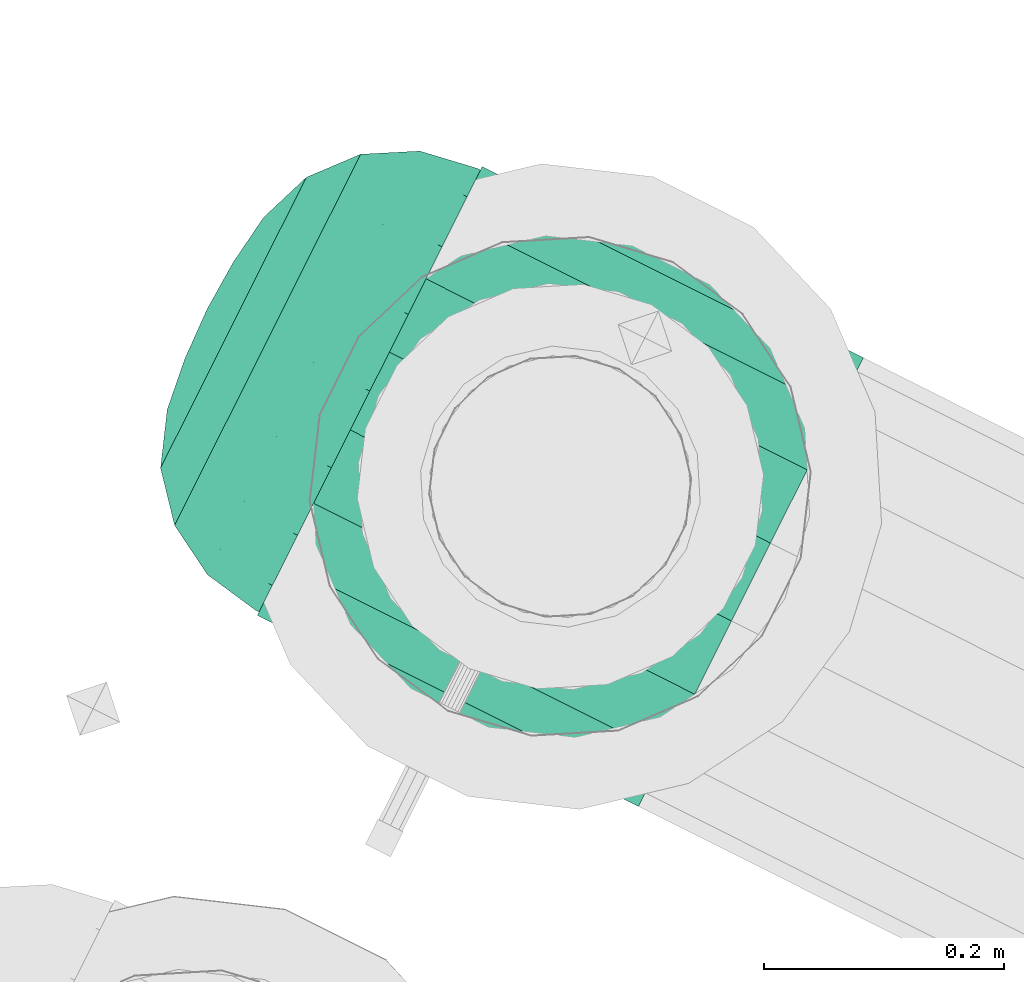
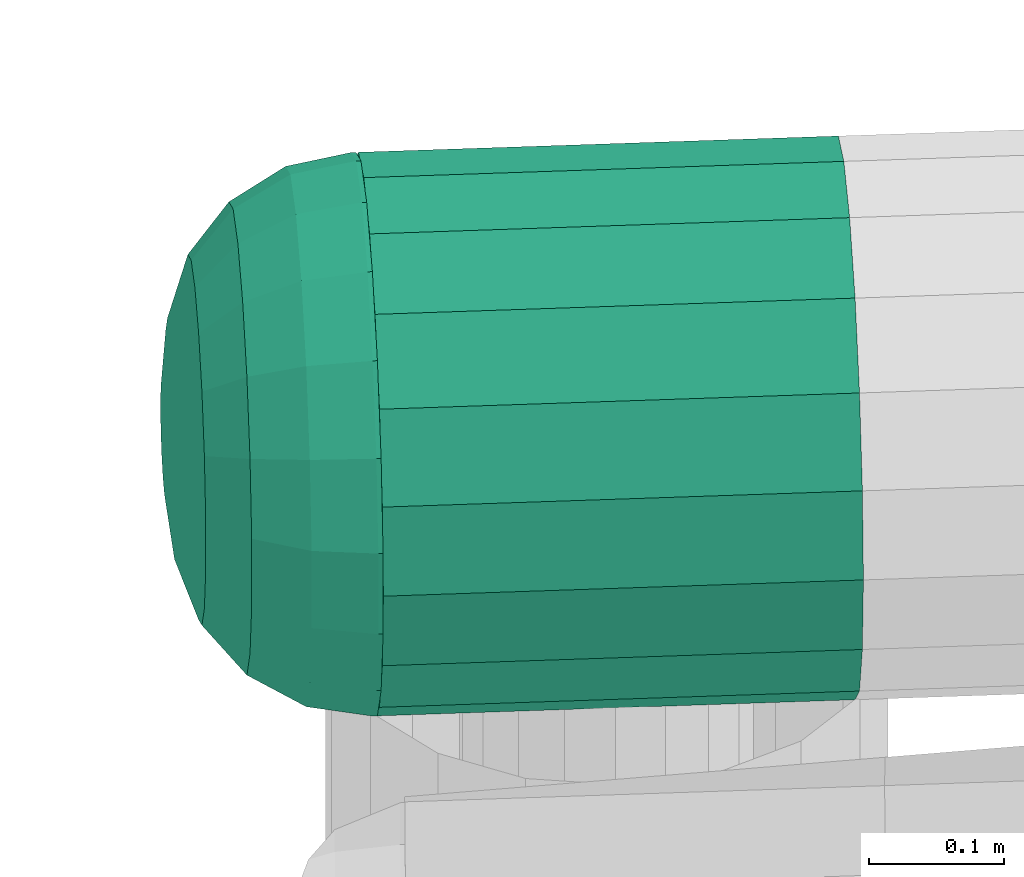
# One storey, part 130 of 152: 2 flow fittings.
"""IFC2X3 building model written with IfcOpenShell, lengths in metres."""

from ifc_helpers import new_model, si_unit, derived_unit, direction, frame, origin, place, context, subcontext, project, spatial, face_set, surface_model, source, transform, mapped, material, type_object, type_shapes, element, save


model = new_model("IFC2X3")

# Units and contexts
model_context = context("Model", 3, precision=5.2338327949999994e-05, world=origin(), true_north=direction((0.0, 1.0)))
body_context = subcontext(model_context, "Body", "Model", "MODEL_VIEW")
ifc_project = project(units=[si_unit("LENGTHUNIT", "METRE"), si_unit("AREAUNIT", "SQUARE_METRE"), si_unit("VOLUMEUNIT", "CUBIC_METRE"), si_unit("MASSUNIT", "GRAM", prefix="KILO"), si_unit("PLANEANGLEUNIT", "RADIAN"), derived_unit("THERMALTRANSMITTANCEUNIT", [(si_unit("MASSUNIT", "GRAM", prefix="KILO"), 1), (si_unit("THERMODYNAMICTEMPERATUREUNIT", "KELVIN"), -1), (si_unit("TIMEUNIT", "SECOND"), -3)])], contexts=[model_context])

# Site, building, storey
site_placement = place(None, frame((0.0, 0.0, 0.0), z_axis=(0.0, 0.0, 1.0), x_axis=(0.8939966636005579, -0.4480736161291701, 0.0)))
site = spatial("IfcSite", under=ifc_project, at=site_placement, Name="Default", CompositionType="ELEMENT")
building_placement = place(site_placement, origin())
building = spatial("IfcBuilding", under=site, at=building_placement, CompositionType="ELEMENT")
storey_placement = place(building_placement, frame((0.0, 0.0, 2.7499999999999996)))
storey = spatial("IfcBuildingStorey", under=building, at=storey_placement, Name="1. Obergeschoss", CompositionType="ELEMENT", Elevation=2.7499999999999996)

# Flow fittings
ifc_material = material(Name="IfcSurfaceStyle #1741")
distribution_element_type_1 = type_object("IfcDistributionElementType", Name="Abzweigstück 226775:Abzweigstück 226775", material=ifc_material)
shared_shape_1 = source(origin(), body_context, "Body", "SurfaceModel", [
    surface_model("IfcFaceBasedSurfaceModel", [(5.3007665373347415, 7.902658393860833, 5.553028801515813), (5.3007665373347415, 7.909265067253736, 5.59049710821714), (4.944766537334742, 7.909265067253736, 5.59049710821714), (4.944766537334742, 7.902658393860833, 5.553028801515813), (5.3007665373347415, 7.928288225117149, 5.623446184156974), (4.944766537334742, 7.928288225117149, 5.623446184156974), (5.3007665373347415, 7.957433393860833, 5.6479018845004), (4.944766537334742, 7.957433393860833, 5.6479018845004), (5.3007665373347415, 7.9931852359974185, 5.660914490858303), (4.944766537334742, 7.9931852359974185, 5.660914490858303), (5.3007665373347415, 8.031231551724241, 5.660914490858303), (4.944766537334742, 8.031231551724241, 5.660914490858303), (5.3007665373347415, 8.066983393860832, 5.647901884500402), (4.944766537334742, 8.066983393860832, 5.647901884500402), (5.3007665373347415, 8.096128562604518, 5.623446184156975), (4.944766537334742, 8.096128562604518, 5.623446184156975), (5.3007665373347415, 8.115151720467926, 5.590497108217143), (4.944766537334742, 8.115151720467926, 5.590497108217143), (5.3007665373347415, 8.121758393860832, 5.553028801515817), (4.944766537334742, 8.121758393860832, 5.553028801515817), (5.3007665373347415, 8.115151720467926, 5.51556049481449), (4.944766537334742, 8.115151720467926, 5.51556049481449), (5.3007665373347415, 8.096128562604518, 5.482611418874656), (4.944766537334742, 8.096128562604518, 5.482611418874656), (5.3007665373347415, 8.066983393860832, 5.458155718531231), (4.944766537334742, 8.066983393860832, 5.458155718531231), (5.3007665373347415, 8.031231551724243, 5.445143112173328), (4.944766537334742, 8.031231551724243, 5.445143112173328), (5.3007665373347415, 7.993185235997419, 5.445143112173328), (4.944766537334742, 7.993185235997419, 5.445143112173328), (5.3007665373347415, 7.957433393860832, 5.45815571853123), (4.944766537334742, 7.957433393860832, 5.45815571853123), (5.3007665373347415, 7.928288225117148, 5.4826114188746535), (4.944766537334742, 7.928288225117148, 5.4826114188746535), (5.3007665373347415, 7.909265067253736, 5.515560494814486), (4.944766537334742, 7.909265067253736, 5.515560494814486), (5.3007665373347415, 7.802658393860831, 5.553028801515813), (5.3007665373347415, 7.8152958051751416, 5.624699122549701), (4.944766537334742, 7.815295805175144, 5.624699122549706), (4.944766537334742, 7.802658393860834, 5.553028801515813), (5.3007665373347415, 7.851683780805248, 5.687724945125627), (4.944766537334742, 7.851683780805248, 5.687724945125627), (5.3007665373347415, 7.907433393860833, 5.7345044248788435), (4.944766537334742, 7.907433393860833, 5.7345044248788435), (5.3007665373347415, 7.975820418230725, 5.759395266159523), (4.944766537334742, 7.975820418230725, 5.759395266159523), (5.3007665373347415, 8.048596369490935, 5.759395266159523), (4.944766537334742, 8.048596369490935, 5.759395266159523), (5.3007665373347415, 8.11698339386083, 5.734504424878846), (4.944766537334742, 8.11698339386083, 5.734504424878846), (5.3007665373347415, 8.172733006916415, 5.687724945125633), (4.944766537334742, 8.172733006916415, 5.687724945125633), (5.3007665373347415, 8.20912098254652, 5.6246991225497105), (4.944766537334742, 8.20912098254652, 5.6246991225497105), (5.3007665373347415, 8.22175839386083, 5.553028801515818), (4.944766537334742, 8.22175839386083, 5.553028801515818), (5.3007665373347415, 8.209120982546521, 5.481358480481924), (4.944766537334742, 8.209120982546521, 5.481358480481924), (5.3007665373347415, 8.172733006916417, 5.418332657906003), (4.944766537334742, 8.172733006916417, 5.418332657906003), (5.3007665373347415, 8.116983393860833, 5.371553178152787), (4.944766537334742, 8.116983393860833, 5.371553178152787), (5.3007665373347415, 8.04859636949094, 5.3466623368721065), (4.944766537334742, 8.04859636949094, 5.3466623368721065), (5.3007665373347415, 7.97582041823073, 5.3466623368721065), (4.944766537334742, 7.97582041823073, 5.3466623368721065), (5.3007665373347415, 7.907433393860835, 5.3715531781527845), (4.944766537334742, 7.907433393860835, 5.3715531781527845), (5.3007665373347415, 7.851683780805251, 5.418332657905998), (4.944766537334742, 7.851683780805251, 5.418332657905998), (5.3007665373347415, 7.815295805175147, 5.481358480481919), (4.944766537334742, 7.815295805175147, 5.481358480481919), (5.013216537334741, 8.012208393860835, 5.443478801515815), (5.019823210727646, 8.049676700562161, 5.45008547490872), (5.019823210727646, 8.049676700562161, 5.375028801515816), (5.013216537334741, 8.012208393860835, 5.375028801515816), (5.038846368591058, 8.082625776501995, 5.469108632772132), (5.038846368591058, 8.082625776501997, 5.375028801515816), (5.067991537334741, 8.107081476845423, 5.498253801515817), (5.067991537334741, 8.107081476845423, 5.375028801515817), (5.10374337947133, 8.120094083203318, 5.534005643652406), (5.10374337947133, 8.12009408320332, 5.375028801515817), (5.141789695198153, 8.12009408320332, 5.534005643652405), (5.141789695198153, 8.120094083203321, 5.375028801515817), (5.177541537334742, 8.107081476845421, 5.498253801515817), (5.177541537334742, 8.10708147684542, 5.375028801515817), (5.2066867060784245, 8.082625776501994, 5.469108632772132), (5.2066867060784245, 8.082625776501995, 5.375028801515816), (5.225709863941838, 8.049676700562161, 5.45008547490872), (5.225709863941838, 8.049676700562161, 5.375028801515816), (5.232316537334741, 8.012208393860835, 5.443478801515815), (5.232316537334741, 8.012208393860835, 5.375028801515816), (5.225709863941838, 7.974740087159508, 5.450085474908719), (5.225709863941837, 7.974740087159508, 5.375028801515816), (5.2066867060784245, 7.941791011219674, 5.46910863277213), (5.2066867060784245, 7.941791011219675, 5.375028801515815), (5.177541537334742, 7.917335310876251, 5.498253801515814), (5.177541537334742, 7.917335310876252, 5.375028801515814), (5.141789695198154, 7.904322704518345, 5.534005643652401), (5.141789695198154, 7.904322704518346, 5.375028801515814), (5.10374337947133, 7.904322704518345, 5.534005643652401), (5.10374337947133, 7.904322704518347, 5.375028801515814), (5.067991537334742, 7.917335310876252, 5.498253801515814), (5.067991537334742, 7.917335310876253, 5.375028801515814), (5.038846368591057, 7.941791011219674, 5.46910863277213), (5.038846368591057, 7.941791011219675, 5.375028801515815), (5.019823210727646, 7.974740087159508, 5.450085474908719), (5.019823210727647, 7.974740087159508, 5.375028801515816)], [face_set([[[0, 1, 2, 3]], [[1, 4, 5, 2]], [[4, 6, 7, 5]], [[6, 8, 9, 7]], [[8, 10, 11, 9]], [[10, 12, 13, 11]], [[12, 14, 15, 13]], [[14, 16, 17, 15]], [[16, 18, 19, 17]], [[18, 20, 21, 19]], [[20, 22, 23, 21]], [[22, 24, 25, 23]], [[24, 26, 27, 25]], [[26, 28, 29, 27]], [[28, 30, 31, 29]], [[30, 32, 33, 31]], [[32, 34, 35, 33]], [[34, 0, 3, 35]], [[36, 37, 38, 39]], [[37, 40, 41, 38]], [[40, 42, 43, 41]], [[42, 44, 45, 43]], [[44, 46, 47, 45]], [[46, 48, 49, 47]], [[48, 50, 51, 49]], [[50, 52, 53, 51]], [[52, 54, 55, 53]], [[54, 56, 57, 55]], [[56, 58, 59, 57]], [[58, 60, 61, 59]], [[60, 62, 63, 61]], [[62, 64, 65, 63]], [[64, 66, 67, 65]], [[66, 68, 69, 67]], [[68, 70, 71, 69]], [[70, 36, 39, 71]], [[72, 73, 74, 75]], [[73, 76, 77, 74]], [[76, 78, 79, 77]], [[78, 80, 81, 79]], [[80, 82, 83, 81]], [[82, 84, 85, 83]], [[84, 86, 87, 85]], [[86, 88, 89, 87]], [[88, 90, 91, 89]], [[90, 92, 93, 91]], [[92, 94, 95, 93]], [[94, 96, 97, 95]], [[96, 98, 99, 97]], [[98, 100, 101, 99]], [[100, 102, 103, 101]], [[102, 104, 105, 103]], [[104, 106, 107, 105]], [[106, 72, 75, 107]]])]),
])
type_shapes(distribution_element_type_1, [shared_shape_1])
flow_fitting_1_placement = place(storey_placement, frame((0.0, 0.0, -2.7499999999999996)))
element("IfcFlowFitting", 1, at=flow_fitting_1_placement, inside=storey, type_object=distribution_element_type_1, material=ifc_material, Name="Abzweigstück", ObjectType="Abzweigstück", context=body_context, shape_type="MappedRepresentation", body=[
    mapped(shared_shape_1, transform((0.0, 0.0, 0.0), scale=1.0)),
])
distribution_element_type_2 = type_object("IfcDistributionElementType", Name="Klöpperboden 240325:Klöpperboden 240325", material=ifc_material)
shared_shape_2 = source(origin(), body_context, "Body", "SurfaceModel", [
    surface_model("IfcFaceBasedSurfaceModel", [(4.898305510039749, 8.012208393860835, 5.553028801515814), (4.903973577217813, 8.012208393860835, 5.602659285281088), (4.903973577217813, 8.029183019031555, 5.599666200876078), (4.903973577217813, 8.0441102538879, 5.591047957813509), (4.903973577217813, 8.055189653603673, 5.577844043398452), (4.903973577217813, 8.061084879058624, 5.561647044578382), (4.90397357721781, 8.061084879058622, 5.544410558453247), (4.903973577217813, 8.055189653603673, 5.528213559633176), (4.903973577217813, 8.0441102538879, 5.515009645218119), (4.903973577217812, 8.029183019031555, 5.5063914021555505), (4.903973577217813, 8.012208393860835, 5.5033983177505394), (4.903973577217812, 7.995233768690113, 5.506391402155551), (4.903973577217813, 7.980306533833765, 5.51500964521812), (4.903973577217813, 7.969227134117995, 5.528213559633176), (4.903973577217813, 7.9633319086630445, 5.544410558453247), (4.903973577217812, 7.963331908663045, 5.561647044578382), (4.903973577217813, 7.969227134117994, 5.577844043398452), (4.903973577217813, 7.980306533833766, 5.59104795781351), (4.903973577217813, 7.995233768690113, 5.599666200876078), (4.920685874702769, 8.012208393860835, 5.64973381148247), (4.9206858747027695, 8.04528345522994, 5.64390178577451), (4.920685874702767, 8.074369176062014, 5.627109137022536), (4.9206858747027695, 8.095957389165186, 5.601381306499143), (4.9206858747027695, 8.10744423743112, 5.569821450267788), (4.9206858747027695, 8.10744423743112, 5.536236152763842), (4.920685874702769, 8.095957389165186, 5.504676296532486), (4.920685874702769, 8.074369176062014, 5.47894846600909), (4.920685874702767, 8.045283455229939, 5.462155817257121), (4.920685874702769, 8.012208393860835, 5.456323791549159), (4.9206858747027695, 7.979133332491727, 5.462155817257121), (4.920685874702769, 7.950047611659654, 5.4789484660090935), (4.920685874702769, 7.928459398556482, 5.5046762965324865), (4.9206858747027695, 7.916972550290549, 5.536236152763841), (4.92068587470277, 7.916972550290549, 5.569821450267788), (4.920685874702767, 7.928459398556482, 5.6013813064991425), (4.920685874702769, 7.950047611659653, 5.627109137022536), (4.920685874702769, 7.979133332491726, 5.64390178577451), (4.925751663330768, 8.012208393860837, 5.656525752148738), (4.925751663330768, 8.047606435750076, 5.650284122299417), (4.92575166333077, 8.078734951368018, 5.632312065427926), (4.925751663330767, 8.10183938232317, 5.604777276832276), (4.925751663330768, 8.11413299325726, 5.571000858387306), (4.92575166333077, 8.11413299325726, 5.535056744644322), (4.925751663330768, 8.10183938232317, 5.501280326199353), (4.92575166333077, 8.078734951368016, 5.473745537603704), (4.92575166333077, 8.047606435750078, 5.455773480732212), (4.92575166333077, 8.012208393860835, 5.449531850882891), (4.925751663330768, 7.976810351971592, 5.455773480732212), (4.92575166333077, 7.945681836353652, 5.473745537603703), (4.92575166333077, 7.922577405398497, 5.501280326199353), (4.92575166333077, 7.910283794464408, 5.535056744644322), (4.92575166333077, 7.910283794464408, 5.571000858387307), (4.92575166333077, 7.922577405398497, 5.6047772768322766), (4.925751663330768, 7.94568183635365, 5.632312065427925), (4.92575166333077, 7.976810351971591, 5.650284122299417), (4.9329396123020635, 8.012208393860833, 5.6610119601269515), (4.932939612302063, 8.049140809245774, 5.6544997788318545), (4.9329396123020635, 8.081618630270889, 5.6357487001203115), (4.9329396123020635, 8.105724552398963, 5.607020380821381), (4.932939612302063, 8.118551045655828, 5.571779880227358), (4.9329396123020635, 8.11855104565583, 5.534277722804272), (4.9329396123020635, 8.105724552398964, 5.499037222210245), (4.9329396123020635, 8.08161863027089, 5.470308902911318), (4.9329396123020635, 8.049140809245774, 5.4515578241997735), (4.9329396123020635, 8.012208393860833, 5.445045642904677), (4.9329396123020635, 7.975275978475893, 5.451557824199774), (4.9329396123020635, 7.9427981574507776, 5.470308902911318), (4.932939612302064, 7.9186922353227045, 5.499037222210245), (4.932939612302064, 7.905865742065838, 5.534277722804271), (4.9329396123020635, 7.905865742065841, 5.571779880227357), (4.9329396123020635, 7.9186922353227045, 5.607020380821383), (4.932939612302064, 7.9427981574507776, 5.635748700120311), (4.9329396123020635, 7.975275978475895, 5.654499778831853), (4.941266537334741, 8.012208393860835, 5.6625788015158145), (4.941266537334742, 8.049676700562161, 5.65597212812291), (4.941266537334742, 8.082625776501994, 5.636948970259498), (4.941266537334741, 8.10708147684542, 5.6078038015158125), (4.941266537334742, 8.120094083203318, 5.572051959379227), (4.941266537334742, 8.120094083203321, 5.534005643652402), (4.941266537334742, 8.10708147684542, 5.498253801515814), (4.941266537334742, 8.082625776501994, 5.469108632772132), (4.941266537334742, 8.049676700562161, 5.450085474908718), (4.941266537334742, 8.012208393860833, 5.443478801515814), (4.941266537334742, 7.974740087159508, 5.450085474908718), (4.941266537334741, 7.941791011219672, 5.469108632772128), (4.941266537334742, 7.917335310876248, 5.498253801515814), (4.941266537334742, 7.904322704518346, 5.534005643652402), (4.941266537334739, 7.904322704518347, 5.572051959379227), (4.941266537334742, 7.917335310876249, 5.607803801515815), (4.941266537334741, 7.941791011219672, 5.636948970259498), (4.941266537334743, 7.974740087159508, 5.655972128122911), (4.944766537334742, 8.012208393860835, 5.6625788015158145), (4.944766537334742, 8.049676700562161, 5.65597212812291), (4.944766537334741, 8.082625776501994, 5.636948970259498), (4.944766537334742, 8.107081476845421, 5.607803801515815), (4.944766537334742, 8.120094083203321, 5.572051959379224), (4.944766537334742, 8.120094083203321, 5.5340056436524), (4.944766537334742, 8.107081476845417, 5.498253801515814), (4.944766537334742, 8.082625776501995, 5.469108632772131), (4.944766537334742, 8.049676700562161, 5.450085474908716), (4.944766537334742, 8.012208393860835, 5.443478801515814), (4.944766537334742, 7.974740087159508, 5.450085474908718), (4.944766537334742, 7.9417910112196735, 5.46910863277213), (4.944766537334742, 7.917335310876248, 5.498253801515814), (4.944766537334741, 7.904322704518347, 5.534005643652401), (4.944766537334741, 7.904322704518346, 5.572051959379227), (4.944766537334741, 7.917335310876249, 5.607803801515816), (4.944766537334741, 7.941791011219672, 5.636948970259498), (4.944766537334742, 7.974740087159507, 5.65597212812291), (4.79261642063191, 8.012208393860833, 5.553028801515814), (4.794581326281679, 8.012208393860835, 5.5987364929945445), (4.794581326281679, 8.027841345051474, 5.595979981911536), (4.794581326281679, 8.041588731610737, 5.588042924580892), (4.794581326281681, 8.051792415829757, 5.575882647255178), (4.794581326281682, 8.057221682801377, 5.560965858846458), (4.794581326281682, 8.057221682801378, 5.54509174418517), (4.794581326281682, 8.051792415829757, 5.53017495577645), (4.794581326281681, 8.041588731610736, 5.5180146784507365), (4.794581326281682, 8.027841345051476, 5.510077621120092), (4.794581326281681, 8.012208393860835, 5.5073211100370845), (4.794581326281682, 7.996575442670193, 5.510077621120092), (4.794581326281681, 7.9828280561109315, 5.5180146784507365), (4.794581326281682, 7.972624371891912, 5.53017495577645), (4.794581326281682, 7.9671951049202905, 5.54509174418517), (4.794581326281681, 7.96719510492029, 5.560965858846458), (4.794581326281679, 7.972624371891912, 5.575882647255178), (4.794581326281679, 7.9828280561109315, 5.5880429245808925), (4.794581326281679, 7.996575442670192, 5.595979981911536), (4.800461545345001, 8.012208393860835, 5.644106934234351), (4.800461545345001, 8.043358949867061, 5.6386142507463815), (4.800461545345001, 8.070752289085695, 5.622798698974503), (4.800461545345, 8.091084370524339, 5.598567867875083), (4.800461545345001, 8.101902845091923, 5.5688443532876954), (4.800461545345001, 8.101902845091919, 5.537213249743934), (4.800461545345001, 8.091084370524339, 5.507489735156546), (4.800461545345, 8.070752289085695, 5.483258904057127), (4.800461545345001, 8.043358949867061, 5.467443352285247), (4.800461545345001, 8.012208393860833, 5.461950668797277), (4.800461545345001, 7.981057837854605, 5.467443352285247), (4.800461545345, 7.953664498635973, 5.483258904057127), (4.800461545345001, 7.933332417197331, 5.507489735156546), (4.800461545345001, 7.9225139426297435, 5.5372132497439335), (4.800461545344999, 7.922513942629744, 5.568844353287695), (4.800461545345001, 7.933332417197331, 5.598567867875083), (4.800461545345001, 7.953664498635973, 5.622798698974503), (4.800461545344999, 7.981057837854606, 5.638614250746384), (4.817359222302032, 8.012208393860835, 5.690874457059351), (4.817359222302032, 8.059354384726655, 5.682561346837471), (4.817359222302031, 8.100813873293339, 5.658624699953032), (4.817359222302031, 8.131586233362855, 5.621951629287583), (4.817359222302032, 8.147959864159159, 5.576965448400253), (4.817359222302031, 8.147959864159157, 5.529092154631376), (4.817359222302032, 8.131586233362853, 5.484105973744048), (4.817359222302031, 8.100813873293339, 5.447432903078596), (4.817359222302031, 8.059354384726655, 5.423496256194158), (4.817359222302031, 8.012208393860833, 5.415183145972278), (4.817359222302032, 7.965062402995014, 5.423496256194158), (4.817359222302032, 7.923602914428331, 5.447432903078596), (4.817359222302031, 7.892830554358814, 5.484105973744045), (4.8173592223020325, 7.876456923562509, 5.529092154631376), (4.817359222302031, 7.876456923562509, 5.576965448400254), (4.817359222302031, 7.892830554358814, 5.621951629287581), (4.817359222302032, 7.923602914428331, 5.658624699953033), (4.8173592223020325, 7.965062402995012, 5.6825613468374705), (4.849258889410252, 8.012208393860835, 5.729020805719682), (4.849258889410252, 8.072401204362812, 5.7184071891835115), (4.84925888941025, 8.12533387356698, 5.687846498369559), (4.849258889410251, 8.164621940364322, 5.641024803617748), (4.849258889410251, 8.185526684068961, 5.583589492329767), (4.849258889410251, 8.185526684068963, 5.522468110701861), (4.849258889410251, 8.164621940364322, 5.46503279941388), (4.84925888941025, 8.12533387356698, 5.418211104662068), (4.849258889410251, 8.072401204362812, 5.3876504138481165), (4.84925888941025, 8.012208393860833, 5.377036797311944), (4.849258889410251, 7.952015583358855, 5.3876504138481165), (4.849258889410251, 7.899082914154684, 5.418211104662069), (4.84925888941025, 7.859794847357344, 5.46503279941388), (4.84925888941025, 7.838890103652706, 5.522468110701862), (4.84925888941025, 7.838890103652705, 5.583589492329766), (4.849258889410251, 7.859794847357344, 5.641024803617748), (4.849258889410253, 7.899082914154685, 5.68784649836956), (4.849258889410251, 7.952015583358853, 5.718407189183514), (4.892298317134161, 8.012208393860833, 5.753927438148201), (4.89229831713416, 8.080919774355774, 5.741811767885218), (4.892298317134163, 8.14134354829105, 5.706926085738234), (4.89229831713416, 8.186191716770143, 5.653478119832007), (4.892298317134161, 8.210054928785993, 5.587914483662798), (4.89229831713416, 8.21005492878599, 5.518143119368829), (4.89229831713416, 8.18619171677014, 5.452579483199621), (4.892298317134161, 8.14134354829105, 5.3991315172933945), (4.892298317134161, 8.080919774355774, 5.364245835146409), (4.89229831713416, 8.012208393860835, 5.352130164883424), (4.892298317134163, 7.943497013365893, 5.36424583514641), (4.89229831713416, 7.883073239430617, 5.3991315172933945), (4.892298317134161, 7.838225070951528, 5.452579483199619), (4.892298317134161, 7.814361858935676, 5.518143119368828), (4.892298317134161, 7.814361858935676, 5.587914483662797), (4.892298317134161, 7.838225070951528, 5.653478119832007), (4.892298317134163, 7.883073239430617, 5.706926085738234), (4.89229831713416, 7.943497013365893, 5.741811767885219), (4.941266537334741, 8.012208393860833, 5.762578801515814), (4.941266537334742, 8.083878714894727, 5.749941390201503), (4.941266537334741, 8.146904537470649, 5.713553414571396), (4.941266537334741, 8.193684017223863, 5.657803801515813), (4.941266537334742, 8.21857485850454, 5.589416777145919), (4.941266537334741, 8.218574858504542, 5.516640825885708), (4.941266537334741, 8.193684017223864, 5.448253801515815), (4.941266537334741, 8.146904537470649, 5.392504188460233), (4.941266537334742, 8.083878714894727, 5.356116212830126), (4.941266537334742, 8.012208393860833, 5.343478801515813), (4.941266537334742, 7.940538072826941, 5.356116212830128), (4.941266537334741, 7.8775122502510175, 5.392504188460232), (4.941266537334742, 7.830732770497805, 5.448253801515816), (4.941266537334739, 7.805841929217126, 5.516640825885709), (4.941266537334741, 7.805841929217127, 5.589416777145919), (4.941266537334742, 7.8307327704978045, 5.657803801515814), (4.941266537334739, 7.87751225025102, 5.713553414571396), (4.941266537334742, 7.940538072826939, 5.7499413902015), (4.944766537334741, 8.012208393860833, 5.762578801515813), (4.944766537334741, 8.083878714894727, 5.749941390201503), (4.944766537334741, 8.146904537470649, 5.713553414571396), (4.944766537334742, 8.193684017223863, 5.657803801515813), (4.944766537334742, 8.218574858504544, 5.589416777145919), (4.944766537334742, 8.218574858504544, 5.516640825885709), (4.944766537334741, 8.19368401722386, 5.448253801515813), (4.944766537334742, 8.14690453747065, 5.392504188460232), (4.944766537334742, 8.083878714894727, 5.356116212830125), (4.944766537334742, 8.012208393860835, 5.343478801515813), (4.944766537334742, 7.940538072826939, 5.356116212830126), (4.944766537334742, 7.877512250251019, 5.392504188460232), (4.944766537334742, 7.830732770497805, 5.448253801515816), (4.944766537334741, 7.805841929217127, 5.516640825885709), (4.944766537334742, 7.805841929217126, 5.589416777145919), (4.944766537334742, 7.830732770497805, 5.657803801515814), (4.944766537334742, 7.877512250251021, 5.713553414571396), (4.944766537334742, 7.940538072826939, 5.7499413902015)], [face_set([[[0, 1, 2]], [[0, 2, 3]], [[0, 3, 4]], [[0, 4, 5]], [[0, 5, 6]], [[0, 6, 7]], [[0, 7, 8]], [[0, 8, 9]], [[0, 9, 10]], [[0, 10, 11]], [[0, 11, 12]], [[0, 12, 13]], [[0, 13, 14]], [[0, 14, 15]], [[0, 15, 16]], [[0, 16, 17]], [[0, 17, 18]], [[0, 18, 1]], [[1, 19, 20, 2]], [[2, 20, 21, 3]], [[3, 21, 22, 4]], [[4, 22, 23, 5]], [[5, 23, 24, 6]], [[6, 24, 25, 7]], [[7, 25, 26, 8]], [[8, 26, 27, 9]], [[9, 27, 28, 10]], [[10, 28, 29, 11]], [[11, 29, 30, 12]], [[12, 30, 31, 13]], [[13, 31, 32, 14]], [[14, 32, 33, 15]], [[15, 33, 34, 16]], [[16, 34, 35, 17]], [[17, 35, 36, 18]], [[18, 36, 19, 1]], [[19, 37, 38, 20]], [[20, 38, 39, 21]], [[21, 39, 40, 22]], [[22, 40, 41, 23]], [[23, 41, 42, 24]], [[24, 42, 43, 25]], [[25, 43, 44, 26]], [[26, 44, 45, 27]], [[27, 45, 46, 28]], [[28, 46, 47, 29]], [[29, 47, 48, 30]], [[30, 48, 49, 31]], [[31, 49, 50, 32]], [[32, 50, 51, 33]], [[33, 51, 52, 34]], [[34, 52, 53, 35]], [[35, 53, 54, 36]], [[36, 54, 37, 19]], [[37, 55, 56, 38]], [[38, 56, 57, 39]], [[39, 57, 58, 40]], [[40, 58, 59, 41]], [[41, 59, 60, 42]], [[42, 60, 61, 43]], [[43, 61, 62, 44]], [[44, 62, 63, 45]], [[45, 63, 64, 46]], [[46, 64, 65, 47]], [[47, 65, 66, 48]], [[48, 66, 67, 49]], [[49, 67, 68, 50]], [[50, 68, 69, 51]], [[51, 69, 70, 52]], [[52, 70, 71, 53]], [[53, 71, 72, 54]], [[54, 72, 55, 37]], [[55, 73, 74, 56]], [[56, 74, 75, 57]], [[57, 75, 76, 58]], [[58, 76, 77, 59]], [[59, 77, 78, 60]], [[60, 78, 79, 61]], [[61, 79, 80, 62]], [[62, 80, 81, 63]], [[63, 81, 82, 64]], [[64, 82, 83, 65]], [[65, 83, 84, 66]], [[66, 84, 85, 67]], [[67, 85, 86, 68]], [[68, 86, 87, 69]], [[69, 87, 88, 70]], [[70, 88, 89, 71]], [[71, 89, 90, 72]], [[72, 90, 73, 55]], [[73, 91, 92, 74]], [[74, 92, 93, 75]], [[75, 93, 94, 76]], [[76, 94, 95, 77]], [[77, 95, 96, 78]], [[78, 96, 97, 79]], [[79, 97, 98, 80]], [[80, 98, 99, 81]], [[81, 99, 100, 82]], [[82, 100, 101, 83]], [[83, 101, 102, 84]], [[84, 102, 103, 85]], [[85, 103, 104, 86]], [[86, 104, 105, 87]], [[87, 105, 106, 88]], [[88, 106, 107, 89]], [[89, 107, 108, 90]], [[90, 108, 91, 73]], [[109, 110, 111]], [[109, 111, 112]], [[109, 112, 113]], [[109, 113, 114]], [[109, 114, 115]], [[109, 115, 116]], [[109, 116, 117]], [[109, 117, 118]], [[109, 118, 119]], [[109, 119, 120]], [[109, 120, 121]], [[109, 121, 122]], [[109, 122, 123]], [[109, 123, 124]], [[109, 124, 125]], [[109, 125, 126]], [[109, 126, 127]], [[109, 127, 110]], [[110, 128, 129, 111]], [[111, 129, 130, 112]], [[112, 130, 131, 113]], [[113, 131, 132, 114]], [[114, 132, 133, 115]], [[115, 133, 134, 116]], [[116, 134, 135, 117]], [[117, 135, 136, 118]], [[118, 136, 137, 119]], [[119, 137, 138, 120]], [[120, 138, 139, 121]], [[121, 139, 140, 122]], [[122, 140, 141, 123]], [[123, 141, 142, 124]], [[124, 142, 143, 125]], [[125, 143, 144, 126]], [[126, 144, 145, 127]], [[127, 145, 128, 110]], [[128, 146, 147, 129]], [[129, 147, 148, 130]], [[130, 148, 149, 131]], [[131, 149, 150, 132]], [[132, 150, 151, 133]], [[133, 151, 152, 134]], [[134, 152, 153, 135]], [[135, 153, 154, 136]], [[136, 154, 155, 137]], [[137, 155, 156, 138]], [[138, 156, 157, 139]], [[139, 157, 158, 140]], [[140, 158, 159, 141]], [[141, 159, 160, 142]], [[142, 160, 161, 143]], [[143, 161, 162, 144]], [[144, 162, 163, 145]], [[145, 163, 146, 128]], [[146, 164, 165, 147]], [[147, 165, 166, 148]], [[148, 166, 167, 149]], [[149, 167, 168, 150]], [[150, 168, 169, 151]], [[151, 169, 170, 152]], [[152, 170, 171, 153]], [[153, 171, 172, 154]], [[154, 172, 173, 155]], [[155, 173, 174, 156]], [[156, 174, 175, 157]], [[157, 175, 176, 158]], [[158, 176, 177, 159]], [[159, 177, 178, 160]], [[160, 178, 179, 161]], [[161, 179, 180, 162]], [[162, 180, 181, 163]], [[163, 181, 164, 146]], [[164, 182, 183, 165]], [[165, 183, 184, 166]], [[166, 184, 185, 167]], [[167, 185, 186, 168]], [[168, 186, 187, 169]], [[169, 187, 188, 170]], [[170, 188, 189, 171]], [[171, 189, 190, 172]], [[172, 190, 191, 173]], [[173, 191, 192, 174]], [[174, 192, 193, 175]], [[175, 193, 194, 176]], [[176, 194, 195, 177]], [[177, 195, 196, 178]], [[178, 196, 197, 179]], [[179, 197, 198, 180]], [[180, 198, 199, 181]], [[181, 199, 182, 164]], [[182, 200, 201, 183]], [[183, 201, 202, 184]], [[184, 202, 203, 185]], [[185, 203, 204, 186]], [[186, 204, 205, 187]], [[187, 205, 206, 188]], [[188, 206, 207, 189]], [[189, 207, 208, 190]], [[190, 208, 209, 191]], [[191, 209, 210, 192]], [[192, 210, 211, 193]], [[193, 211, 212, 194]], [[194, 212, 213, 195]], [[195, 213, 214, 196]], [[196, 214, 215, 197]], [[197, 215, 216, 198]], [[198, 216, 217, 199]], [[199, 217, 200, 182]], [[200, 218, 219, 201]], [[201, 219, 220, 202]], [[202, 220, 221, 203]], [[203, 221, 222, 204]], [[204, 222, 223, 205]], [[205, 223, 224, 206]], [[206, 224, 225, 207]], [[207, 225, 226, 208]], [[208, 226, 227, 209]], [[209, 227, 228, 210]], [[210, 228, 229, 211]], [[211, 229, 230, 212]], [[212, 230, 231, 213]], [[213, 231, 232, 214]], [[214, 232, 233, 215]], [[215, 233, 234, 216]], [[216, 234, 235, 217]], [[217, 235, 218, 200]]])]),
])
type_shapes(distribution_element_type_2, [shared_shape_2])
flow_fitting_2_placement = place(storey_placement, frame((0.0, 0.0, -2.7499999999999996)))
element("IfcFlowFitting", 2, at=flow_fitting_2_placement, inside=storey, type_object=distribution_element_type_2, material=ifc_material, Name="Klöpperboden", ObjectType="Klöpperboden", context=body_context, shape_type="MappedRepresentation", body=[
    mapped(shared_shape_2, transform((0.0, 0.0, 0.0), scale=1.0)),
])

save(model, "model.ifc")
